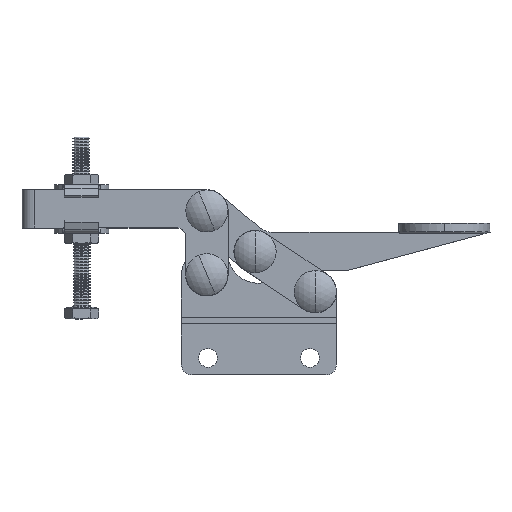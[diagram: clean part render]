
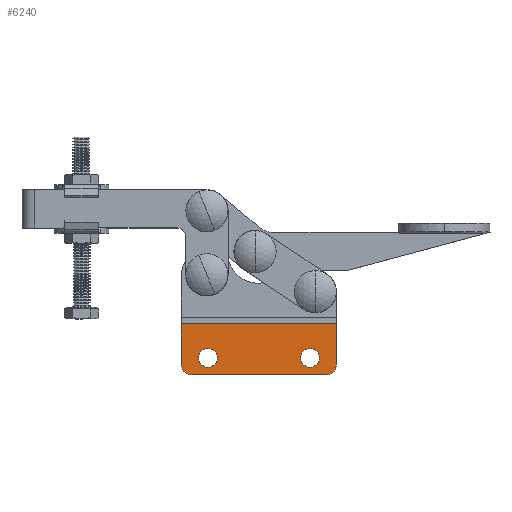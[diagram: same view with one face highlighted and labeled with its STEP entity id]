
A CAD part, top view. The second image highlights one B-rep face of the part: STEP entity #6240.
In plain terms, the highlighted planar face has unit normal (0, 0, 1).
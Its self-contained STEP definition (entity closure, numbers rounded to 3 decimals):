
#121 = LINE ( 'NONE', #3199, #11034 ) ;
#122 = CARTESIAN_POINT ( 'NONE',  ( -6.25, -7.571, 2. ) ) ;
#247 = ORIENTED_EDGE ( 'NONE', *, *, #14082, .T. ) ;
#329 = EDGE_CURVE ( 'NONE', #12469, #18121, #17098, .T. ) ;
#782 = DIRECTION ( 'NONE',  ( 0., -1., 0. ) ) ;
#941 = EDGE_LOOP ( 'NONE', ( #12394, #6864, #10652, #5107, #4894, #247 ) ) ;
#951 = DIRECTION ( 'NONE',  ( 0., -1., 0. ) ) ;
#1176 = CIRCLE ( 'NONE', #8943, 2.2 ) ;
#1587 = DIRECTION ( 'NONE',  ( 0., -1., 0. ) ) ;
#1757 = EDGE_CURVE ( 'NONE', #11368, #7143, #11629, .T. ) ;
#2038 = CARTESIAN_POINT ( 'NONE',  ( 0., -9.071, 2. ) ) ;
#2718 = DIRECTION ( 'NONE',  ( 1., 0., 0. ) ) ;
#2859 = CARTESIAN_POINT ( 'NONE',  ( -36.5, 0.429, 2. ) ) ;
#3199 = CARTESIAN_POINT ( 'NONE',  ( 0., 2.429, 2. ) ) ;
#3469 = ORIENTED_EDGE ( 'NONE', *, *, #1757, .F. ) ;
#3516 = CARTESIAN_POINT ( 'NONE',  ( -36.5, 2.429, 2. ) ) ;
#3680 = AXIS2_PLACEMENT_3D ( 'NONE', #17031, #8480, #18474 ) ;
#3689 = CARTESIAN_POINT ( 'NONE',  ( -30.25, -7.571, 2. ) ) ;
#3871 = VECTOR ( 'NONE', #2718, 1000. ) ;
#4192 = CARTESIAN_POINT ( 'NONE',  ( -36.5, -9.071, 2. ) ) ;
#4533 = CARTESIAN_POINT ( 'NONE',  ( -34., -9.071, 2. ) ) ;
#4574 = EDGE_CURVE ( 'NONE', #9222, #7874, #13764, .T. ) ;
#4894 = ORIENTED_EDGE ( 'NONE', *, *, #15516, .T. ) ;
#5091 = DIRECTION ( 'NONE',  ( 0., -1., 0. ) ) ;
#5107 = ORIENTED_EDGE ( 'NONE', *, *, #4574, .F. ) ;
#5952 = DIRECTION ( 'NONE',  ( 0., -1., 0. ) ) ;
#6066 = EDGE_CURVE ( 'NONE', #7874, #10962, #121, .T. ) ;
#6240 = ADVANCED_FACE ( 'NONE', ( #11722, #15508, #7907 ), #14957, .T. ) ;
#6363 = AXIS2_PLACEMENT_3D ( 'NONE', #18043, #9462, #951 ) ;
#6864 = ORIENTED_EDGE ( 'NONE', *, *, #7900, .T. ) ;
#7143 = VERTEX_POINT ( 'NONE', #18055 ) ;
#7206 = LINE ( 'NONE', #11235, #3871 ) ;
#7274 = DIRECTION ( 'NONE',  ( 1., 0., 0. ) ) ;
#7326 = CIRCLE ( 'NONE', #13154, 2.5 ) ;
#7580 = CARTESIAN_POINT ( 'NONE',  ( -30.25, -7.571, 2. ) ) ;
#7874 = VERTEX_POINT ( 'NONE', #7989 ) ;
#7900 = EDGE_CURVE ( 'NONE', #17001, #10962, #13152, .T. ) ;
#7907 = FACE_OUTER_BOUND ( 'NONE', #941, .T. ) ;
#7989 = CARTESIAN_POINT ( 'NONE',  ( 0., 0.429, 2. ) ) ;
#8480 = DIRECTION ( 'NONE',  ( 0., 0., 1. ) ) ;
#8523 = AXIS2_PLACEMENT_3D ( 'NONE', #3689, #13640, #5091 ) ;
#8849 = CIRCLE ( 'NONE', #8523, 2.2 ) ;
#8943 = AXIS2_PLACEMENT_3D ( 'NONE', #122, #10084, #1587 ) ;
#9000 = DIRECTION ( 'NONE',  ( 0., -1., 0. ) ) ;
#9159 = DIRECTION ( 'NONE',  ( 0., -1., 0. ) ) ;
#9222 = VERTEX_POINT ( 'NONE', #2859 ) ;
#9306 = DIRECTION ( 'NONE',  ( 0., 0., 1. ) ) ;
#9342 = EDGE_LOOP ( 'NONE', ( #17331, #17765 ) ) ;
#9462 = DIRECTION ( 'NONE',  ( 0., 0., 1. ) ) ;
#9515 = VECTOR ( 'NONE', #7274, 1000. ) ;
#10084 = DIRECTION ( 'NONE',  ( 0., 0., 1. ) ) ;
#10652 = ORIENTED_EDGE ( 'NONE', *, *, #6066, .F. ) ;
#10755 = EDGE_CURVE ( 'NONE', #16572, #17001, #7206, .T. ) ;
#10962 = VERTEX_POINT ( 'NONE', #2038 ) ;
#11034 = VECTOR ( 'NONE', #13140, 1000. ) ;
#11235 = CARTESIAN_POINT ( 'NONE',  ( -36.5, -11.571, 2. ) ) ;
#11345 = VERTEX_POINT ( 'NONE', #4192 ) ;
#11368 = VERTEX_POINT ( 'NONE', #17033 ) ;
#11538 = CARTESIAN_POINT ( 'NONE',  ( -36.5, 0.429, 2. ) ) ;
#11629 = CIRCLE ( 'NONE', #3680, 2.2 ) ;
#11722 = FACE_BOUND ( 'NONE', #18443, .T. ) ;
#11963 = EDGE_CURVE ( 'NONE', #7143, #11368, #1176, .T. ) ;
#12394 = ORIENTED_EDGE ( 'NONE', *, *, #10755, .T. ) ;
#12469 = VERTEX_POINT ( 'NONE', #14168 ) ;
#12643 = VECTOR ( 'NONE', #9159, 1000. ) ;
#13140 = DIRECTION ( 'NONE',  ( 0., -1., 0. ) ) ;
#13152 = CIRCLE ( 'NONE', #6363, 2.5 ) ;
#13154 = AXIS2_PLACEMENT_3D ( 'NONE', #4533, #14516, #5952 ) ;
#13362 = ORIENTED_EDGE ( 'NONE', *, *, #11963, .F. ) ;
#13640 = DIRECTION ( 'NONE',  ( 0., 0., 1. ) ) ;
#13764 = LINE ( 'NONE', #11538, #9515 ) ;
#14082 = EDGE_CURVE ( 'NONE', #11345, #16572, #7326, .T. ) ;
#14168 = CARTESIAN_POINT ( 'NONE',  ( -30.25, -9.771, 2. ) ) ;
#14516 = DIRECTION ( 'NONE',  ( 0., 0., 1. ) ) ;
#14957 = PLANE ( 'NONE',  #16516 ) ;
#15484 = CARTESIAN_POINT ( 'NONE',  ( -34., -11.571, 2. ) ) ;
#15508 = FACE_BOUND ( 'NONE', #9342, .T. ) ;
#15516 = EDGE_CURVE ( 'NONE', #9222, #11345, #16461, .T. ) ;
#16442 = CARTESIAN_POINT ( 'NONE',  ( -36.5, 2.429, 2. ) ) ;
#16461 = LINE ( 'NONE', #3516, #12643 ) ;
#16516 = AXIS2_PLACEMENT_3D ( 'NONE', #16442, #9306, #782 ) ;
#16572 = VERTEX_POINT ( 'NONE', #15484 ) ;
#16653 = AXIS2_PLACEMENT_3D ( 'NONE', #7580, #17553, #9000 ) ;
#16982 = EDGE_CURVE ( 'NONE', #18121, #12469, #8849, .T. ) ;
#17001 = VERTEX_POINT ( 'NONE', #17951 ) ;
#17031 = CARTESIAN_POINT ( 'NONE',  ( -6.25, -7.571, 2. ) ) ;
#17033 = CARTESIAN_POINT ( 'NONE',  ( -6.25, -9.771, 2. ) ) ;
#17098 = CIRCLE ( 'NONE', #16653, 2.2 ) ;
#17331 = ORIENTED_EDGE ( 'NONE', *, *, #329, .F. ) ;
#17553 = DIRECTION ( 'NONE',  ( 0., 0., 1. ) ) ;
#17765 = ORIENTED_EDGE ( 'NONE', *, *, #16982, .F. ) ;
#17951 = CARTESIAN_POINT ( 'NONE',  ( -2.5, -11.571, 2. ) ) ;
#18043 = CARTESIAN_POINT ( 'NONE',  ( -2.5, -9.071, 2. ) ) ;
#18055 = CARTESIAN_POINT ( 'NONE',  ( -6.25, -5.371, 2. ) ) ;
#18074 = CARTESIAN_POINT ( 'NONE',  ( -30.25, -5.371, 2. ) ) ;
#18121 = VERTEX_POINT ( 'NONE', #18074 ) ;
#18443 = EDGE_LOOP ( 'NONE', ( #3469, #13362 ) ) ;
#18474 = DIRECTION ( 'NONE',  ( 0., -1., 0. ) ) ;
